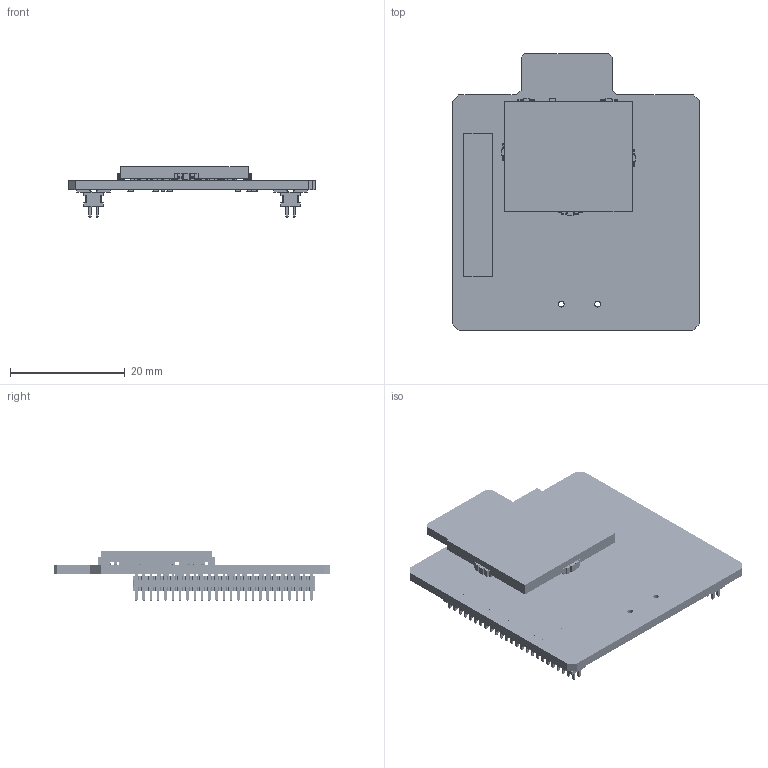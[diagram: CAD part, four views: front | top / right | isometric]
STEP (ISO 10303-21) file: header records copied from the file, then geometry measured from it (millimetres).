
FILE_DESCRIPTION(('Open CASCADE Model'),'2;1');
FILE_NAME('Open CASCADE Shape Model','2024-02-22T11:34:51',('Author'),( 'Open CASCADE'),'Open CASCADE STEP processor 7.5','Open CASCADE 7.5' ,'Unknown');
FILE_SCHEMA(('AUTOMOTIVE_DESIGN { 1 0 10303 214 1 1 1 1 }'));
Length unit declared in the file: millimetre
Products named in the file (124): PCB; Board; Open CASCADE STEP translator 7.5 1.1.1; CN1; FTSH-125-02-L-DV; CN2; SH1; Shield_Miniboard_V2; L7; FERRITE_BEAD_0603; User Library-FB_1608-1_Pad001; User Library-FB_1608-1_Cut; 6414611552; Extruded; L5; C0402; 6414605792; SB30; R0402; 6414603072; SB17; SB10; SB42; SB41; L6; L0805; 6414611872; L4; 6414603552; C26; 6414607872; C24; C23; C6; 6414608592; 6414608432; L1; L2; U1; UFQFPN48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
Assembly tree (212 placements, depth 4):
  PCB
    Board
      Open CASCADE STEP translator 7.5 1.1.1
    CN1
      FTSH-125-02-L-DV
    CN2
      FTSH-125-02-L-DV
    SH1
      Shield_Miniboard_V2
    L7
      FERRITE_BEAD_0603
        User Library-FB_1608-1_Pad001
        User Library-FB_1608-1_Cut
      6414611552
        Extruded
    L5
      C0402
      6414605792
        Extruded
    SB30
      R0402
      6414603072
        Extruded
    SB17
      R0402
      6414603072
        Extruded
    SB10
      R0402
      6414603072
        Extruded
    SB42
      R0402
      6414603072
        Extruded
    SB41
      R0402
      6414603072
        Extruded
    L6
      L0805
      6414611872
        Extruded
    L4
      FERRITE_BEAD_0603
        User Library-FB_1608-1_Pad001
        User Library-FB_1608-1_Cut
      6414603552
        Extruded
    C26
      C0402
      6414607872
        Extruded
    C24
      C0402
      6414607872
        Extruded
    C23
      C0402
      6414605792
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Bounding box: 43 x 48.22 x 8.87 mm (x, y, z)
Volume: 3741 mm3; surface area: 8853 mm2
Topology: 423 solids, 423 shells, 13891 faces, 32739 edges, 19002 vertices
Faces by surface type: plane 6946, cylinder 3557, bspline 1862, sphere 1176, torus 198, revolution 152
Full cylindrical faces by diameter (mm): 1 x2
Entity records: 121329 total; most frequent: CARTESIAN_POINT 27149, ORIENTED_EDGE 17074, DIRECTION 16296, EDGE_CURVE 8537, LINE 7266, VECTOR 7266, VERTEX_POINT 5446, AXIS2_PLACEMENT_3D 4511
